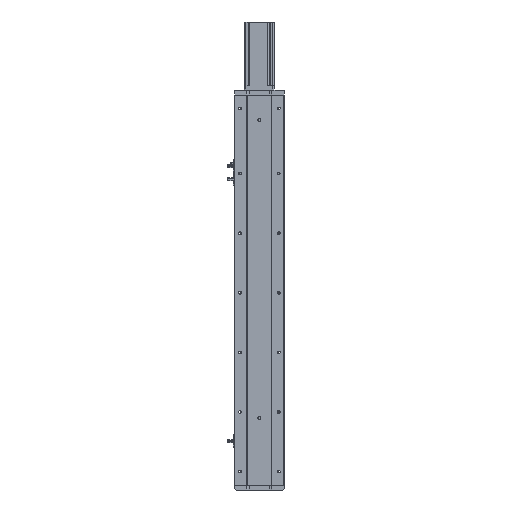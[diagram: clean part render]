
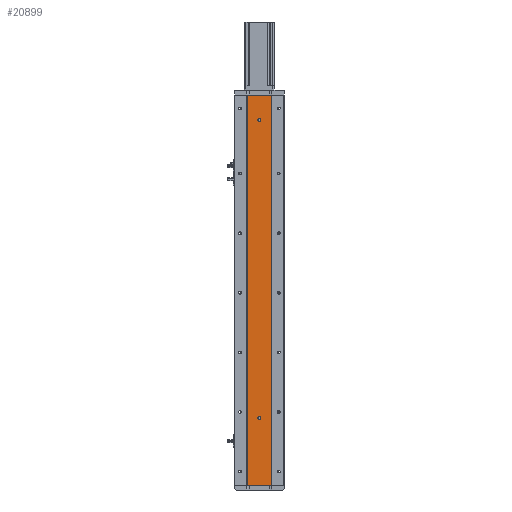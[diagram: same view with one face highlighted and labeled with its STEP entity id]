
A CAD part, left-side view. The second image highlights one B-rep face of the part: STEP entity #20899.
In plain terms, the highlighted planar face has unit normal (-1, 0, 0).
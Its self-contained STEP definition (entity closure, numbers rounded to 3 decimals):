
#14 = EDGE_LOOP ( 'NONE', ( #24924, #22427 ) ) ;
#532 = CIRCLE ( 'NONE', #15803, 3. ) ;
#648 = ORIENTED_EDGE ( 'NONE', *, *, #29462, .T. ) ;
#893 = FACE_OUTER_BOUND ( 'NONE', #9449, .T. ) ;
#899 = CARTESIAN_POINT ( 'NONE',  ( -18.926, 24.785, 0. ) ) ;
#3468 = DIRECTION ( 'NONE',  ( 0., -1., 0. ) ) ;
#3535 = VERTEX_POINT ( 'NONE', #28668 ) ;
#4298 = LINE ( 'NONE', #24739, #12375 ) ;
#5677 = CIRCLE ( 'NONE', #24495, 3. ) ;
#6274 = EDGE_CURVE ( 'NONE', #12090, #33700, #21904, .T. ) ;
#6620 = CARTESIAN_POINT ( 'NONE',  ( -18.926, 24.785, 0. ) ) ;
#7721 = VERTEX_POINT ( 'NONE', #899 ) ;
#8183 = ORIENTED_EDGE ( 'NONE', *, *, #33070, .F. ) ;
#8596 = CARTESIAN_POINT ( 'NONE',  ( -18.926, 24.785, 785. ) ) ;
#9449 = EDGE_LOOP ( 'NONE', ( #36324, #31930, #8183, #648 ) ) ;
#9499 = ORIENTED_EDGE ( 'NONE', *, *, #16481, .F. ) ;
#10352 = DIRECTION ( 'NONE',  ( -1., 0., 0. ) ) ;
#11060 = CARTESIAN_POINT ( 'NONE',  ( -18.926, 0., 735. ) ) ;
#11598 = CARTESIAN_POINT ( 'NONE',  ( -18.926, 24.785, 785. ) ) ;
#11836 = FACE_BOUND ( 'NONE', #14, .T. ) ;
#12090 = VERTEX_POINT ( 'NONE', #15349 ) ;
#12375 = VECTOR ( 'NONE', #3468, 1000. ) ;
#12947 = CARTESIAN_POINT ( 'NONE',  ( -18.926, 0., 735. ) ) ;
#14141 = DIRECTION ( 'NONE',  ( 0., 0., 1. ) ) ;
#14686 = DIRECTION ( 'NONE',  ( 0., 0., -1. ) ) ;
#15349 = CARTESIAN_POINT ( 'NONE',  ( -18.926, -24.785, 785. ) ) ;
#15803 = AXIS2_PLACEMENT_3D ( 'NONE', #11060, #32269, #14141 ) ;
#15823 = LINE ( 'NONE', #8596, #31915 ) ;
#16027 = DIRECTION ( 'NONE',  ( 0., 0., 1. ) ) ;
#16132 = FACE_BOUND ( 'NONE', #23564, .T. ) ;
#16332 = CIRCLE ( 'NONE', #30528, 3. ) ;
#16466 = CARTESIAN_POINT ( 'NONE',  ( -18.926, 0., 135. ) ) ;
#16481 = EDGE_CURVE ( 'NONE', #19491, #34389, #5677, .T. ) ;
#16923 = VERTEX_POINT ( 'NONE', #25421 ) ;
#18666 = AXIS2_PLACEMENT_3D ( 'NONE', #11598, #32834, #14686 ) ;
#19470 = DIRECTION ( 'NONE',  ( 0., 0., 1. ) ) ;
#19491 = VERTEX_POINT ( 'NONE', #28508 ) ;
#19496 = EDGE_CURVE ( 'NONE', #16923, #28003, #30783, .T. ) ;
#20390 = ORIENTED_EDGE ( 'NONE', *, *, #29868, .F. ) ;
#20631 = PLANE ( 'NONE',  #18666 ) ;
#20899 = ADVANCED_FACE ( 'NONE', ( #11836, #16132, #893 ), #20631, .F. ) ;
#21904 = LINE ( 'NONE', #39252, #28994 ) ;
#22427 = ORIENTED_EDGE ( 'NONE', *, *, #19496, .F. ) ;
#23564 = EDGE_LOOP ( 'NONE', ( #20390, #9499 ) ) ;
#24495 = AXIS2_PLACEMENT_3D ( 'NONE', #12947, #34176, #16027 ) ;
#24692 = EDGE_CURVE ( 'NONE', #7721, #33700, #30628, .T. ) ;
#24739 = CARTESIAN_POINT ( 'NONE',  ( -18.926, 24.785, 785. ) ) ;
#24924 = ORIENTED_EDGE ( 'NONE', *, *, #39195, .F. ) ;
#25421 = CARTESIAN_POINT ( 'NONE',  ( -18.926, 0., 132. ) ) ;
#27178 = DIRECTION ( 'NONE',  ( 0., 0., -1. ) ) ;
#27831 = DIRECTION ( 'NONE',  ( 0., -1., 0. ) ) ;
#28003 = VERTEX_POINT ( 'NONE', #36090 ) ;
#28444 = AXIS2_PLACEMENT_3D ( 'NONE', #16466, #37662, #19470 ) ;
#28508 = CARTESIAN_POINT ( 'NONE',  ( -18.926, 0., 732. ) ) ;
#28522 = CARTESIAN_POINT ( 'NONE',  ( -18.926, 0., 135. ) ) ;
#28668 = CARTESIAN_POINT ( 'NONE',  ( -18.926, 24.785, 785. ) ) ;
#28994 = VECTOR ( 'NONE', #27178, 1000. ) ;
#29462 = EDGE_CURVE ( 'NONE', #3535, #7721, #15823, .T. ) ;
#29815 = DIRECTION ( 'NONE',  ( 0., 0., -1. ) ) ;
#29868 = EDGE_CURVE ( 'NONE', #34389, #19491, #532, .T. ) ;
#30528 = AXIS2_PLACEMENT_3D ( 'NONE', #28522, #10352, #31555 ) ;
#30628 = LINE ( 'NONE', #6620, #35842 ) ;
#30783 = CIRCLE ( 'NONE', #28444, 3. ) ;
#31036 = CARTESIAN_POINT ( 'NONE',  ( -18.926, -24.785, 0. ) ) ;
#31555 = DIRECTION ( 'NONE',  ( 0., 0., 1. ) ) ;
#31915 = VECTOR ( 'NONE', #29815, 1000. ) ;
#31930 = ORIENTED_EDGE ( 'NONE', *, *, #6274, .F. ) ;
#32269 = DIRECTION ( 'NONE',  ( -1., 0., 0. ) ) ;
#32834 = DIRECTION ( 'NONE',  ( 1., 0., 0. ) ) ;
#33070 = EDGE_CURVE ( 'NONE', #3535, #12090, #4298, .T. ) ;
#33700 = VERTEX_POINT ( 'NONE', #31036 ) ;
#34176 = DIRECTION ( 'NONE',  ( -1., 0., 0. ) ) ;
#34389 = VERTEX_POINT ( 'NONE', #39201 ) ;
#35842 = VECTOR ( 'NONE', #27831, 1000. ) ;
#36090 = CARTESIAN_POINT ( 'NONE',  ( -18.926, 0., 138. ) ) ;
#36324 = ORIENTED_EDGE ( 'NONE', *, *, #24692, .T. ) ;
#37662 = DIRECTION ( 'NONE',  ( -1., 0., 0. ) ) ;
#39195 = EDGE_CURVE ( 'NONE', #28003, #16923, #16332, .T. ) ;
#39201 = CARTESIAN_POINT ( 'NONE',  ( -18.926, 0., 738. ) ) ;
#39252 = CARTESIAN_POINT ( 'NONE',  ( -18.926, -24.785, 785. ) ) ;
